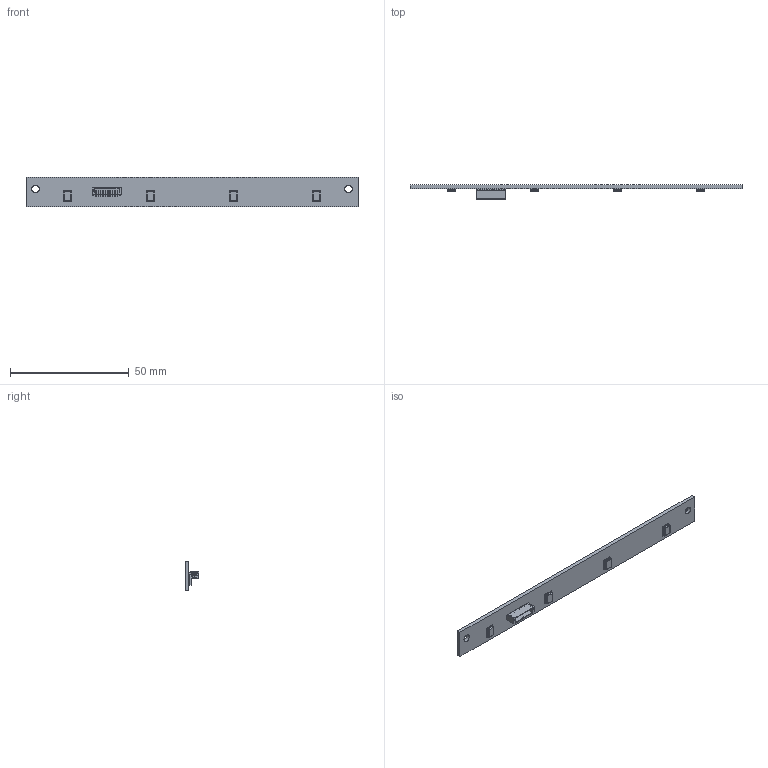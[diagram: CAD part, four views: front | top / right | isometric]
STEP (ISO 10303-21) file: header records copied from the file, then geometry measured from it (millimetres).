
FILE_DESCRIPTION((''),'2;1');
FILE_NAME('MIC_PCB_LINEAR_ASSY_ASM','2020-12-04T',('g6007893'),(''),'CREO PARAMETRIC BY PTC INC, 2014350','CREO PARAMETRIC BY PTC INC, 2014350','');
FILE_SCHEMA(('CONFIG_CONTROL_DESIGN'));
Length unit declared in the file: millimetre
Products named in the file (17): MIC_PCB_LINEAR; SPM0687LR5X_REV_1_SW; MSBR-13-001; MSBR-12-001; MSBR-11-001; MSBR-10-001; MSBR-9-001; MSBR-8-001; MSBR-7-001; MSBR-6-001; MSBR-5-001; MSBR-4-001; MSBR-3-001; MSBR-2-001; MSBR-1-001; HS6110E-10PIN_ASM; MIC_PCB_LINEAR_ASSY_ASM
Assembly tree (19 placements, depth 3):
  MIC_PCB_LINEAR_ASSY_ASM
    MIC_PCB_LINEAR
    SPM0687LR5X_REV_1_SW  x4
    HS6110E-10PIN_ASM
      MSBR-13-001
      MSBR-12-001
      MSBR-11-001
      MSBR-10-001
      MSBR-9-001
      MSBR-8-001
      MSBR-7-001
      MSBR-6-001
      MSBR-5-001
      MSBR-4-001
      MSBR-3-001
      MSBR-2-001
      MSBR-1-001
Bounding box: 140 x 5.9 x 12.5 mm (x, y, z)
Volume: 2923.7 mm3; surface area: 4637 mm2
Topology: 18 solids, 18 shells, 1217 faces, 3340 edges, 2200 vertices
Faces by surface type: plane 737, cylinder 368, bspline 112
Entity records: 41028 total; most frequent: CARTESIAN_POINT 6191, ORIENTED_EDGE 5504, DIRECTION 5320, PRESENTATION_STYLE_ASSIGNMENT 2803, STYLED_ITEM 2767, CURVE_STYLE 2752, EDGE_CURVE 2752, VECTOR 2112
